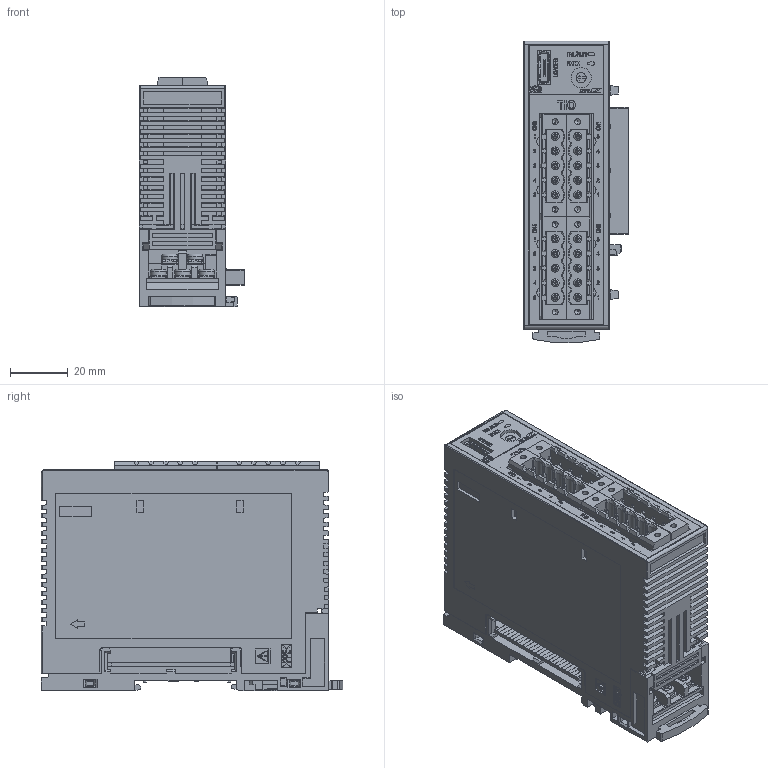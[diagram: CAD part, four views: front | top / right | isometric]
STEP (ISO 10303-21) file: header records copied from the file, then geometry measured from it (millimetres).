
FILE_DESCRIPTION (( 'STEP AP203' ), '1' );
FILE_NAME ('SRZ(Z-TIO-AC）_WEB.STEP', '2015-03-23T03:03:12', ( '' ), ( '' ), 'SwSTEP 2.0', 'SolidWorks 2014', '' );
FILE_SCHEMA (( 'CONFIG_CONTROL_DESIGN' ));
Products named in the file (3): SRZ(基本設計-コネクタ)_WEB; KSRZ-54(1)_WEB; SRZ(Z-TIO-AC）_WEB
Assembly tree (2 placements, depth 2):
  SRZ(Z-TIO-AC）_WEB
    SRZ(基本設計-コネクタ)_WEB
    KSRZ-54(1)_WEB
Bounding box: 36.65 x 104.76 x 79.75 mm (x, y, z)
Volume: 170615.2 mm3; surface area: 64248.9 mm2
Topology: 12 solids, 52 shells, 4521 faces, 11783 edges, 7612 vertices
Faces by surface type: plane 3392, cylinder 507, bspline 464, cone 80, torus 58, sphere 20
Entity records: 149826 total; most frequent: CARTESIAN_POINT 41873, ORIENTED_EDGE 23494, DIRECTION 19779, EDGE_CURVE 11747, VECTOR 9475, LINE 9475, VERTEX_POINT 7612, AXIS2_PLACEMENT_3D 5152
